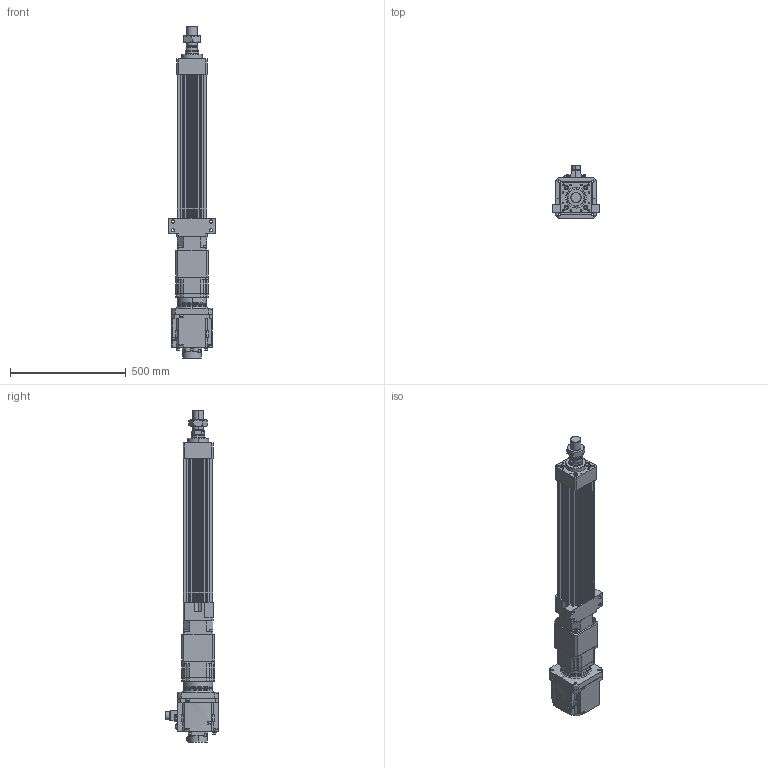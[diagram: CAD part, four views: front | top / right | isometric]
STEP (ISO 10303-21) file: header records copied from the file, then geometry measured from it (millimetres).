
FILE_DESCRIPTION (( 'STEP AP203' ), '1' );
FILE_NAME ('HES130NS(FS)(HS)-S400-W020G00-M-FFC.STEP', '2026-06-10T06:35:03', ( 'tms' ), ( '' ), 'SwSTEP 2.0', 'SolidWorks 2013', '' );
FILE_SCHEMA (( 'CONFIG_CONTROL_DESIGN' ));
Length unit declared in the file: millimetre
Products named in the file (9): AB1422; HES130-S-G142; AB1423; AB1421; HES130-FFC-400; HG-SR202B; HES130-M-ROD-400; M45X1.5P; HES130NS(FS)(HS)-S400-W020G00-M-FFC
Assembly tree (8 placements, depth 2):
  HES130NS(FS)(HS)-S400-W020G00-M-FFC
    HES130-FFC-400
    HES130-M-ROD-400
    M45X1.5P
    HES130-S-G142
    AB1421
    AB1422
    AB1423
    HG-SR202B
Bounding box: 200 x 228.85 x 1435 mm (x, y, z)
Volume: 13516146.5 mm3; surface area: 1624033.6 mm2
Topology: 5 solids, 19 shells, 1585 faces, 4100 edges, 2650 vertices
Faces by surface type: cylinder 710, plane 617, cone 176, bspline 76, torus 6
Entity records: 57272 total; most frequent: CARTESIAN_POINT 17113, DIRECTION 8420, ORIENTED_EDGE 8078, EDGE_CURVE 4061, AXIS2_PLACEMENT_3D 3174, VERTEX_POINT 2650, VECTOR 2072, LINE 2072
